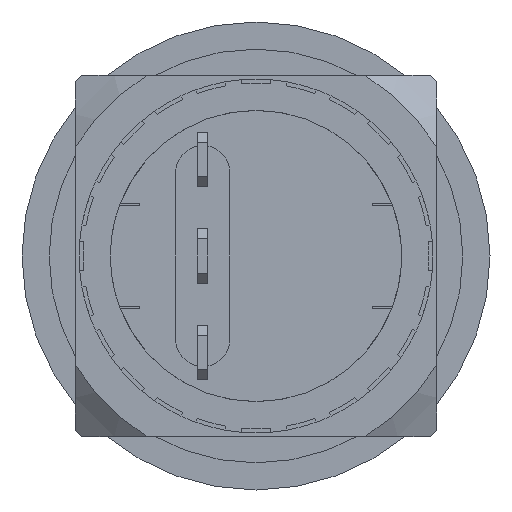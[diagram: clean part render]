
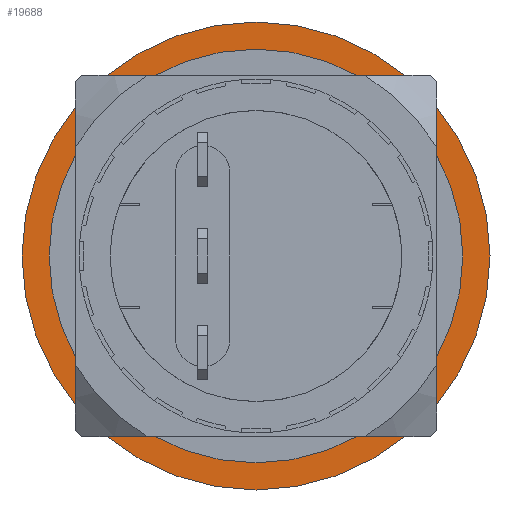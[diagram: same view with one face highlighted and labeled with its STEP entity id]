
A CAD part, front view. The second image highlights one B-rep face of the part: STEP entity #19688.
In plain terms, the highlighted planar face has unit normal (0, -1, 0).
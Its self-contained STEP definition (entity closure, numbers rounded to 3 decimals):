
#8 = AXIS2_PLACEMENT_3D ( 'NONE', #7038, #7039, #7040 ) ;
#1349 = VERTEX_POINT ( 'NONE', #5328 ) ;
#1350 = VERTEX_POINT ( 'NONE', #5329 ) ;
#1353 = VERTEX_POINT ( 'NONE', #5332 ) ;
#1354 = VERTEX_POINT ( 'NONE', #5333 ) ;
#3416 = ORIENTED_EDGE ( 'NONE', *, *, #19817, .T. ) ;
#3417 = ORIENTED_EDGE ( 'NONE', *, *, #4364, .T. ) ;
#3418 = ORIENTED_EDGE ( 'NONE', *, *, #4353, .F. ) ;
#3419 = ORIENTED_EDGE ( 'NONE', *, *, #19818, .F. ) ;
#4353 = EDGE_CURVE ( 'NONE', #1349, #1350, #4597, .T. ) ;
#4364 = EDGE_CURVE ( 'NONE', #1353, #1354, #4604, .T. ) ;
#4597 = CIRCLE ( 'NONE', #19879, 11.65 ) ;
#4604 = CIRCLE ( 'NONE', #8, 10.3 ) ;
#5328 = CARTESIAN_POINT ( 'NONE',  ( -11.65, 29., 0. ) ) ;
#5329 = CARTESIAN_POINT ( 'NONE',  ( 11.65, 29., 0. ) ) ;
#5332 = CARTESIAN_POINT ( 'NONE',  ( 10.3, 29., 0. ) ) ;
#5333 = CARTESIAN_POINT ( 'NONE',  ( -10.3, 29., 0. ) ) ;
#7002 = CARTESIAN_POINT ( 'NONE',  ( 0., 29., 0. ) ) ;
#7006 = DIRECTION ( 'NONE',  ( 0., 1., 0. ) ) ;
#7007 = DIRECTION ( 'NONE',  ( -1., 0., 0. ) ) ;
#7038 = CARTESIAN_POINT ( 'NONE',  ( 0., 29., 0. ) ) ;
#7039 = DIRECTION ( 'NONE',  ( 0., 1., 0. ) ) ;
#7040 = DIRECTION ( 'NONE',  ( -1., 0., 0. ) ) ;
#9913 = FACE_BOUND ( 'NONE', #18875, .T. ) ;
#9918 = FACE_OUTER_BOUND ( 'NONE', #18876, .T. ) ;
#9920 = AXIS2_PLACEMENT_3D ( 'NONE', #16190, #16191, #16192 ) ;
#14864 = CIRCLE ( 'NONE', #16969, 10.3 ) ;
#14865 = CIRCLE ( 'NONE', #16970, 11.65 ) ;
#16189 = PLANE ( 'NONE',  #9920 ) ;
#16190 = CARTESIAN_POINT ( 'NONE',  ( -10.3, 29., 0. ) ) ;
#16191 = DIRECTION ( 'NONE',  ( 0., -1., 0. ) ) ;
#16192 = DIRECTION ( 'NONE',  ( 1., 0., 0. ) ) ;
#16609 = CARTESIAN_POINT ( 'NONE',  ( 0., 29., 0. ) ) ;
#16610 = DIRECTION ( 'NONE',  ( 0., 1., 0. ) ) ;
#16611 = DIRECTION ( 'NONE',  ( -1., 0., 0. ) ) ;
#16612 = CARTESIAN_POINT ( 'NONE',  ( 0., 29., 0. ) ) ;
#16613 = DIRECTION ( 'NONE',  ( 0., 1., 0. ) ) ;
#16614 = DIRECTION ( 'NONE',  ( -1., 0., 0. ) ) ;
#16969 = AXIS2_PLACEMENT_3D ( 'NONE', #16609, #16610, #16611 ) ;
#16970 = AXIS2_PLACEMENT_3D ( 'NONE', #16612, #16613, #16614 ) ;
#18875 = EDGE_LOOP ( 'NONE', ( #3416, #3417 ) ) ;
#18876 = EDGE_LOOP ( 'NONE', ( #3418, #3419 ) ) ;
#19688 = ADVANCED_FACE ( 'NONE', ( #9913, #9918 ), #16189, .T. ) ;
#19817 = EDGE_CURVE ( 'NONE', #1354, #1353, #14864, .T. ) ;
#19818 = EDGE_CURVE ( 'NONE', #1350, #1349, #14865, .T. ) ;
#19879 = AXIS2_PLACEMENT_3D ( 'NONE', #7002, #7006, #7007 ) ;
